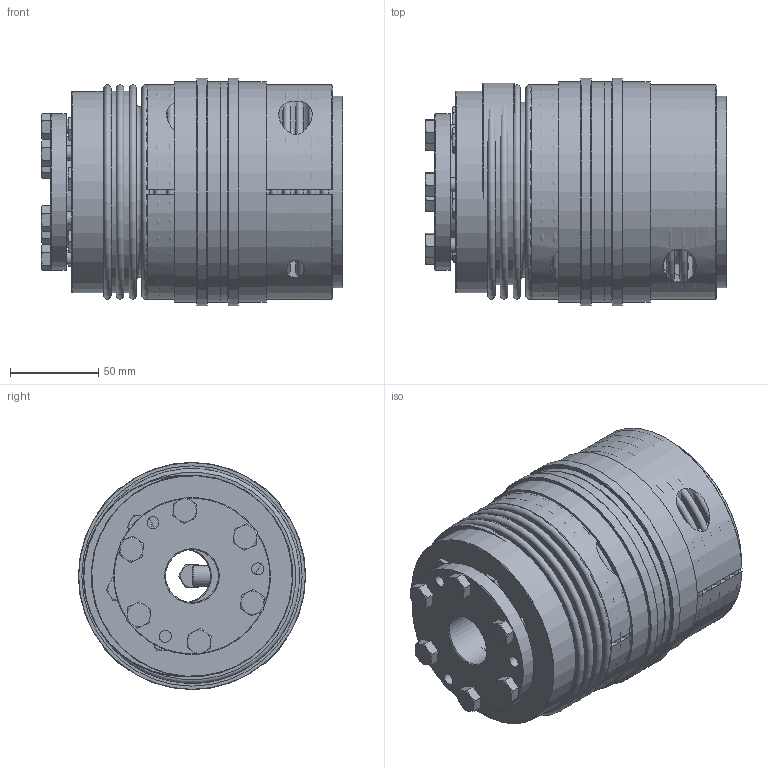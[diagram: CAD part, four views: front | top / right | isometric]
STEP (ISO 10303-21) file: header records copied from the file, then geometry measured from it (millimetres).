
FILE_DESCRIPTION( ( 'Unknown' ), '1' );
FILE_NAME( 'C:/Dokumente und Einstellungen/SKarpstein/Desktop/Korrigierte 3D Modelle/KBK-B-IK/KBK-BIK-500-165.stp', 'Unknown', ( 'Unknown' ), ( 'Unknown' ), 'XStep 1.0', 'Unknown', ' ' );
FILE_SCHEMA( ( 'automotive_design' ) );
Length unit declared in the file: millimetre
Products named in the file (13): Assem1; Assem2; Assem3; Hex Screw GradeC_ISO_ISO 4018 - M8 x 35-NN_2; BA500_Standard_2; KB500_Standard_2; Zylinderschraube DIN 912_3_0_0; Stellring 500_0; Druckring 500_0; KBK L-K-500 Grundkörper_0; Klemmnabe 500_0; Flansch BK500; BL500_Standard_2
Bounding box: 170.9 x 129 x 129 mm (x, y, z)
Volume: 2795829.6 mm3; surface area: 762623.2 mm2
Topology: 34 solids, 34 shells, 642 faces, 1335 edges, 858 vertices
Faces by surface type: plane 271, cone 174, cylinder 149, torus 48
Full cylindrical faces by diameter (mm): 3.242 x6, 5.1 x6, 5.2 x6, 6.8 x27, 8 x13, 9 x18, 10.106 x2, 12 x3, 12.5 x2, 18 x3, 19 x2, 30 x3, 35 x2, 62 x2, 62.6 x3, 65 x4, 70 x2, 80 x2, 86 x4, 89 x3, 90 x2, 93 x3, 104.5 x2, 107.7 x4, 108.9 x4, 113 x2, 114 x2, 114.5 x3, 125 x4, 129 x2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
Entity records: 5610 total; most frequent: CARTESIAN_POINT 1320, DIRECTION 878, ORIENTED_EDGE 548, AXIS2_PLACEMENT_3D 416, EDGE_LOOP 406, FACE_OUTER_BOUND 280, EDGE_CURVE 274, VERTEX_POINT 242
